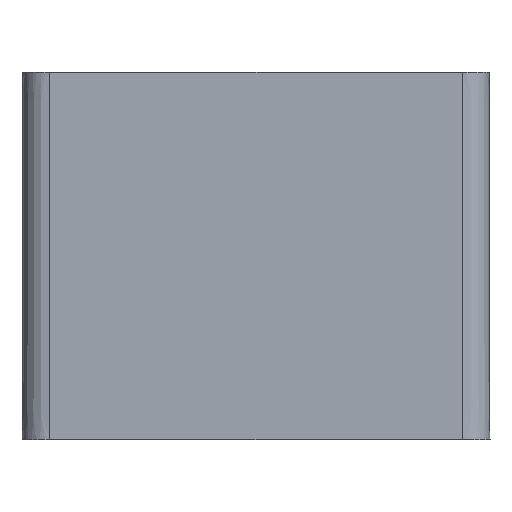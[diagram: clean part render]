
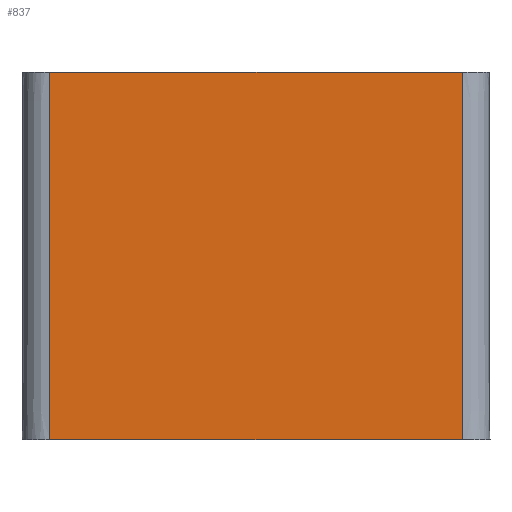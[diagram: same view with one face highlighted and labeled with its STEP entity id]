
A CAD part, front view. The second image highlights one B-rep face of the part: STEP entity #837.
In plain terms, the highlighted planar face has unit normal (0, -1, 0.003).
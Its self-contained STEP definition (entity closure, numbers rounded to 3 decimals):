
#7 = LINE ( 'NONE', #1176, #700 ) ;
#45 = DIRECTION ( 'NONE',  ( 0., 0.003, 1. ) ) ;
#50 = DIRECTION ( 'NONE',  ( 0., -1., 0.003 ) ) ;
#156 = CARTESIAN_POINT ( 'NONE',  ( 0., -0.15, -20. ) ) ;
#236 = EDGE_LOOP ( 'NONE', ( #1247, #539, #1771, #1478 ) ) ;
#269 = CARTESIAN_POINT ( 'NONE',  ( 11.15, -0.15, -20. ) ) ;
#300 = VECTOR ( 'NONE', #45, 1000. ) ;
#307 = DIRECTION ( 'NONE',  ( -1., 0., 0. ) ) ;
#363 = LINE ( 'NONE', #404, #300 ) ;
#381 = FACE_OUTER_BOUND ( 'NONE', #236, .T. ) ;
#391 = CARTESIAN_POINT ( 'NONE',  ( -11.15, -0.098, -0.15 ) ) ;
#404 = CARTESIAN_POINT ( 'NONE',  ( -11.15, 1.35, 552.956 ) ) ;
#411 = EDGE_CURVE ( 'NONE', #1225, #1246, #989, .T. ) ;
#539 = ORIENTED_EDGE ( 'NONE', *, *, #411, .F. ) ;
#571 = CARTESIAN_POINT ( 'NONE',  ( 11.15, -0.098, -0.15 ) ) ;
#582 = CARTESIAN_POINT ( 'NONE',  ( -11.15, -0.15, -20. ) ) ;
#644 = LINE ( 'NONE', #995, #1517 ) ;
#700 = VECTOR ( 'NONE', #985, 1000. ) ;
#719 = DIRECTION ( 'NONE',  ( 0., -0.003, -1. ) ) ;
#778 = VERTEX_POINT ( 'NONE', #391 ) ;
#837 = ADVANCED_FACE ( 'NONE', ( #381 ), #1723, .T. ) ;
#858 = CARTESIAN_POINT ( 'NONE',  ( 0., -0.124, -10.075 ) ) ;
#985 = DIRECTION ( 'NONE',  ( 0., 0.003, 1. ) ) ;
#989 = LINE ( 'NONE', #156, #1259 ) ;
#995 = CARTESIAN_POINT ( 'NONE',  ( 0., -0.098, -0.15 ) ) ;
#998 = DIRECTION ( 'NONE',  ( -1., 0., 0. ) ) ;
#1176 = CARTESIAN_POINT ( 'NONE',  ( 11.15, -0.124, -10.075 ) ) ;
#1225 = VERTEX_POINT ( 'NONE', #269 ) ;
#1246 = VERTEX_POINT ( 'NONE', #582 ) ;
#1247 = ORIENTED_EDGE ( 'NONE', *, *, #1895, .F. ) ;
#1249 = VERTEX_POINT ( 'NONE', #571 ) ;
#1259 = VECTOR ( 'NONE', #998, 1000. ) ;
#1478 = ORIENTED_EDGE ( 'NONE', *, *, #1834, .T. ) ;
#1517 = VECTOR ( 'NONE', #307, 1000. ) ;
#1723 = PLANE ( 'NONE',  #1725 ) ;
#1725 = AXIS2_PLACEMENT_3D ( 'NONE', #858, #50, #719 ) ;
#1770 = EDGE_CURVE ( 'NONE', #1225, #1249, #7, .T. ) ;
#1771 = ORIENTED_EDGE ( 'NONE', *, *, #1770, .T. ) ;
#1834 = EDGE_CURVE ( 'NONE', #1249, #778, #644, .T. ) ;
#1895 = EDGE_CURVE ( 'NONE', #1246, #778, #363, .T. ) ;
